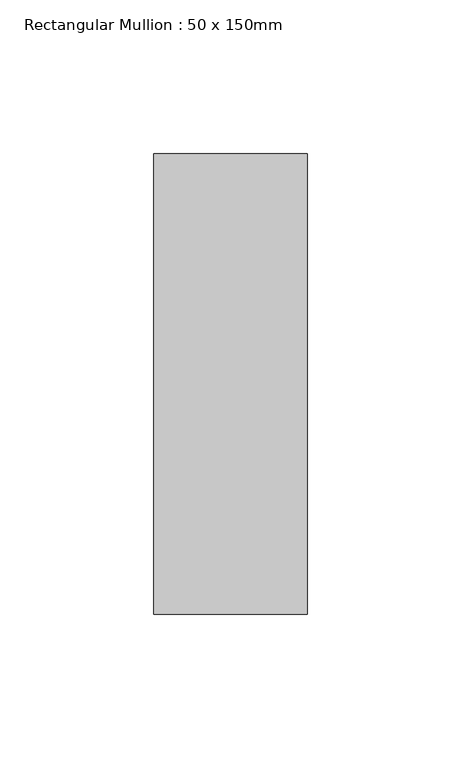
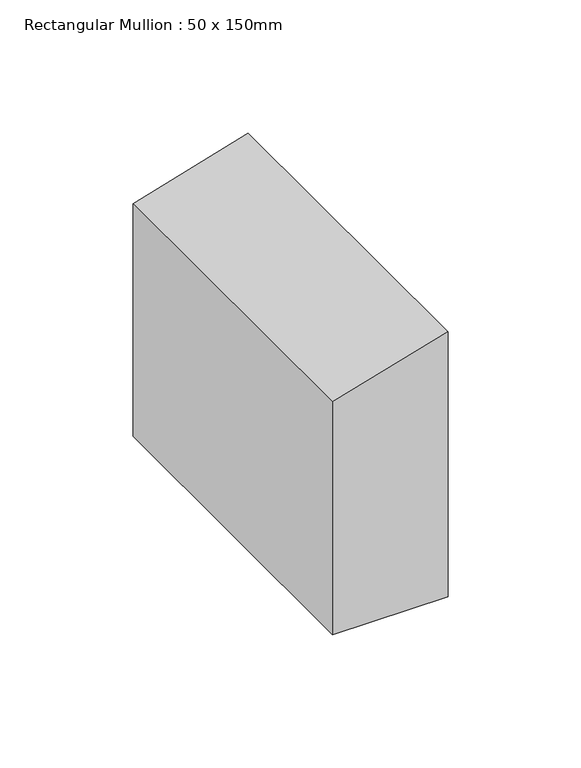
"""IFC4 building model written with IfcOpenShell, lengths in millimetres: member geometry, Rectangular Mullion : 50 x 150mm."""

from ifc_helpers import new_model, si_unit, frame, origin, place, context, project, spatial, polyline, outline, extrude, source, transform, mapped, element, save


def rectangular_mullion_50_x_150mm_0e062e01(model_context):
    return source(origin(), model_context, "Body", "SweptSolid", [
        extrude(outline(polyline([(0.0, 0.0), (-14.7675772, -50.0), (-121.5145646, -50.0), (-121.5145646, 0.0), (0.0, 0.0)])), frame((0.0, -75.0, 0.0), z_axis=(0.0, 1.0, 0.0), x_axis=(0.0, 0.0, 1.0)), (0.0, 0.0, 1.0), 150.0),
    ])


if __name__ == "__main__":
    model = new_model("IFC4")
    model_context = context("Model", 3, world=origin())
    ifc_project = project(units=[si_unit("LENGTHUNIT", "METRE", prefix="MILLI")], contexts=[model_context])
    site = spatial("IfcSite", under=ifc_project)
    building = spatial("IfcBuilding", under=site)
    placement = place(None, origin())
    rectangular_mullion_50_x_150mm_shape = rectangular_mullion_50_x_150mm_0e062e01(model_context)
    element("IfcMember", 1, ObjectType="Rectangular Mullion : 50 x 150mm", at=placement, inside=building, context=model_context, shape_type="MappedRepresentation", body=[
        mapped(rectangular_mullion_50_x_150mm_shape, transform((0.0, 0.0, 0.0), x_axis=(1.0, 0.0, 0.0), y_axis=(0.0, 1.0, 0.0), z_axis=(0.0, 0.0, 1.0))),
    ])
    save(model, "model.ifc")
